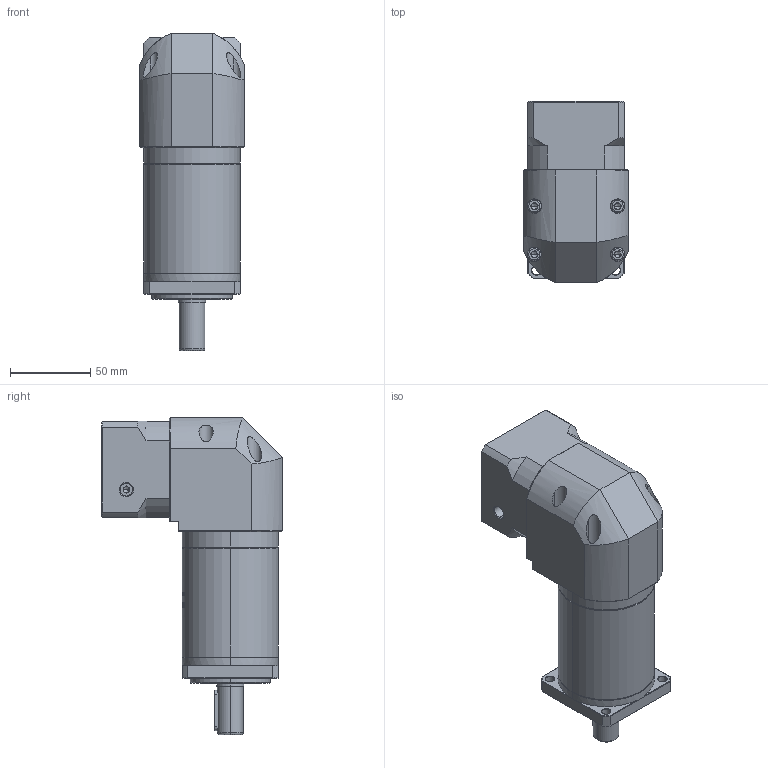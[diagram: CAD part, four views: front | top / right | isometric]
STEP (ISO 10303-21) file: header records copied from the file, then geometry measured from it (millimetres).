
FILE_DESCRIPTION (( 'STEP AP214' ), '1' );
FILE_NAME ('ZFR060-D16-L3-P2-11-50-70-M5.step', '2023-08-17T03:35:47', ( '' ), ( '' ), 'SwSTEP 2.0', 'SolidWorks 2016', '' );
FILE_SCHEMA (( 'AUTOMOTIVE_DESIGN' ));
Length unit declared in the file: millimetre
Products named in the file (1): ZFR060-D16-L3-P2-11-50-70-M5
Bounding box: 65 x 112.7 x 197.5 mm (x, y, z)
Volume: 637406.2 mm3; surface area: 85378.4 mm2
Topology: 5 solids, 6 shells, 1922 faces, 5153 edges, 3328 vertices
Faces by surface type: plane 847, cylinder 407, bspline 354, cone 290, torus 24
Entity records: 106602 total; most frequent: CARTESIAN_POINT 41534, ORIENTED_EDGE 10262, DIRECTION 7684, EDGE_CURVE 5131, VERTEX_POINT 3328, LINE 2614, VECTOR 2614, AXIS2_PLACEMENT_3D 2535
